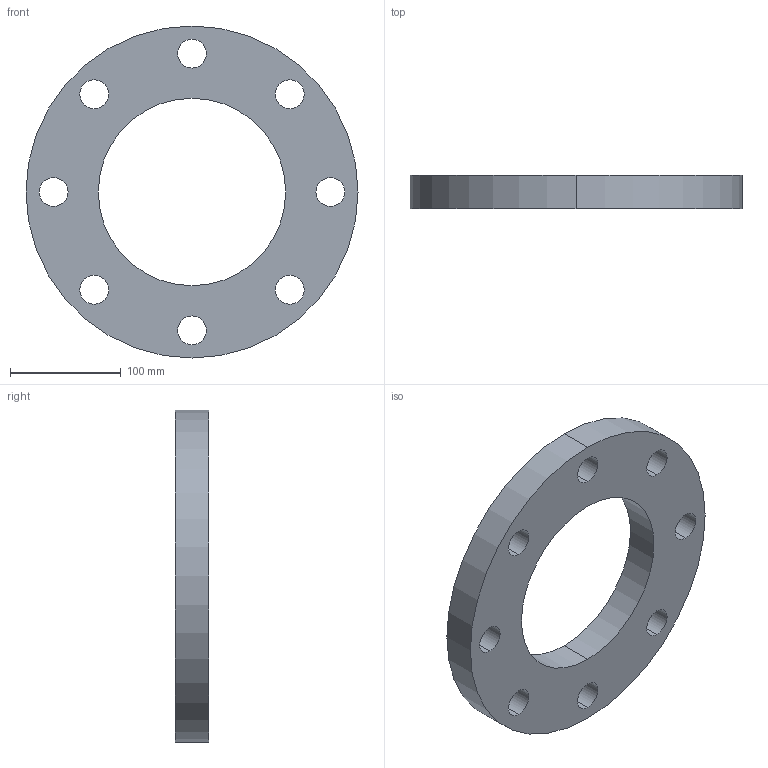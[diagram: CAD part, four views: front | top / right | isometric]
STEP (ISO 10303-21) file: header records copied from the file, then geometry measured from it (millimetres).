
FILE_DESCRIPTION (( 'STEP AP203' ), '1' );
FILE_NAME ('3D_R182-PN40_DN168_176230230.STEP', '2024-07-05T10:32:37', ( '' ), ( '' ), 'SwSTEP 2.0', 'SolidWorks 2024', '' );
FILE_SCHEMA (( 'CONFIG_CONTROL_DESIGN' ));
Length unit declared in the file: millimetre
Products named in the file (1): 3D_R182-PN40_DN168_176230230
Bounding box: 300 x 30 x 300 mm (x, y, z)
Volume: 1317808 mm3; surface area: 151687.9 mm2
Topology: 1 solids, 1 shells, 22 faces, 60 edges, 40 vertices
Faces by surface type: cylinder 20, plane 2
Entity records: 837 total; most frequent: DIRECTION 146, CARTESIAN_POINT 123, ORIENTED_EDGE 120, AXIS2_PLACEMENT_3D 63, EDGE_CURVE 60, CIRCLE 40, VERTEX_POINT 40, EDGE_LOOP 40
